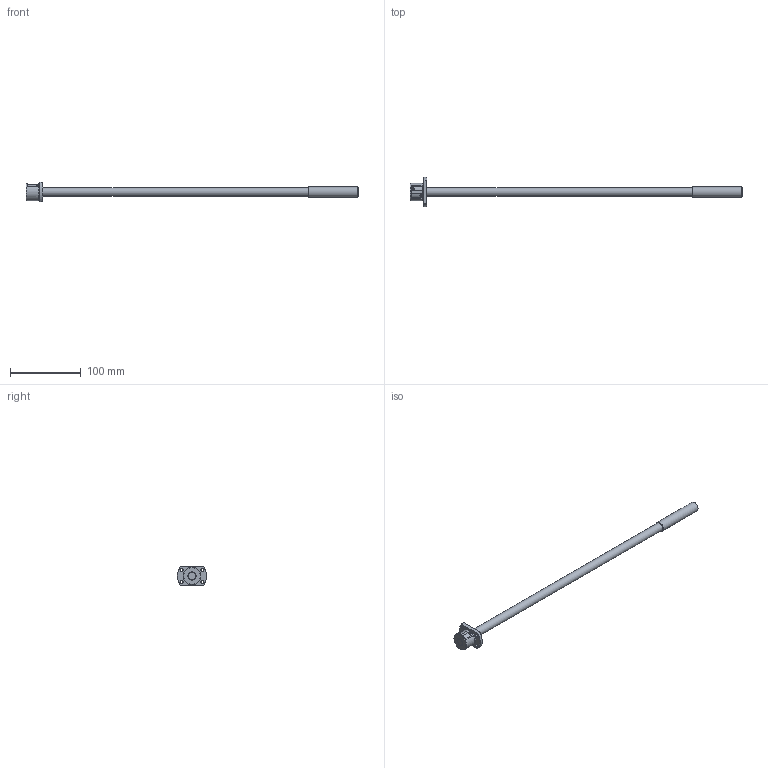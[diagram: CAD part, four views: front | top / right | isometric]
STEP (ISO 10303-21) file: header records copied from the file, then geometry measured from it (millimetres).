
FILE_DESCRIPTION( ( 'STEP AP203' ), '1' );
FILE_NAME( 'e:/temp/worker_110/temp/exporttempdir_5560_7_YQoph/format_0/SRT1202-396R470C10A0X(0None).stp', '2021-10-19T05:53:58', ( 'License CC BY-ND 4.0' ), ( 'CADENAS' ), ' ', 'PARTsolutions', ' ' );
FILE_SCHEMA( ( 'CONFIG_CONTROL_DESIGN' ) );
Length unit declared in the file: millimetre
Products named in the file (3): SRT1202-396R470C10A0X(0None); _SRT1202-396R470ACt10NoneShaft; _SRT1202Nut
Assembly tree (2 placements, depth 2):
  SRT1202-396R470C10A0X(0None)
    _SRT1202-396R470ACt10NoneShaft
    _SRT1202Nut
Bounding box: 470 x 42 x 27 mm (x, y, z)
Volume: 67188.1 mm3; surface area: 23538.1 mm2
Topology: 2 solids, 2 shells, 58 faces, 139 edges, 89 vertices
Faces by surface type: plane 36, cylinder 13, cone 9
Full cylindrical faces by diameter (mm): 4.5 x4, 12 x2, 14.2 x1, 24.5 x1, 25 x1
Entity records: 1770 total; most frequent: CARTESIAN_POINT 381, DIRECTION 276, ORIENTED_EDGE 234, EDGE_CURVE 117, AXIS2_PLACEMENT_3D 108, EDGE_LOOP 86, VERTEX_POINT 81, FACE_OUTER_BOUND 67
